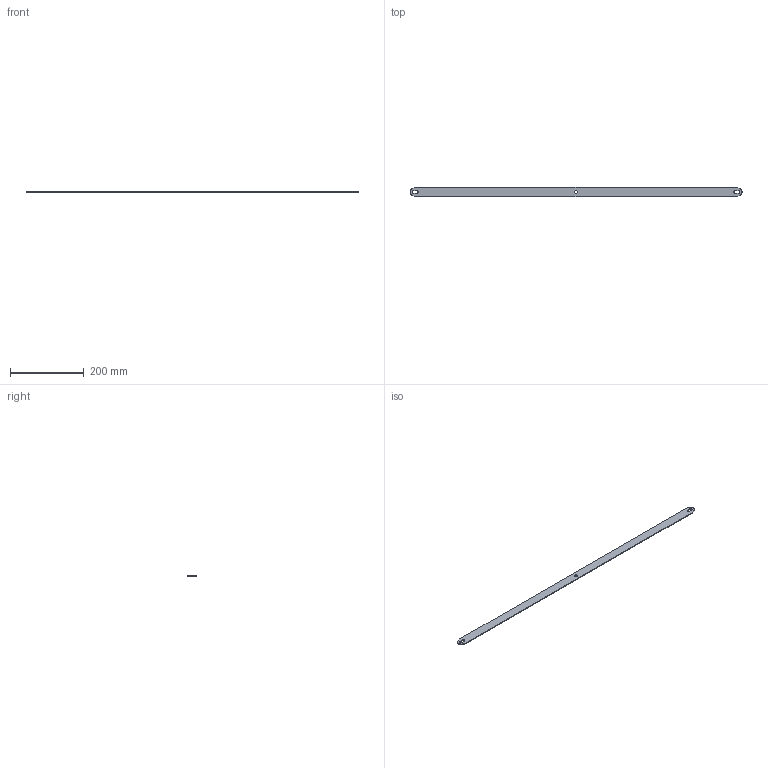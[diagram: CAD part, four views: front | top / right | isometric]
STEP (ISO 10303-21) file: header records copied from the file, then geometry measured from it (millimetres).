
FILE_DESCRIPTION(/* description */ ('Alibre Inc.'),/* implementation_level */ '2;1');
FILE_NAME(/* name */ 'export-74CE3961-5A22-4F89-8971-6955D95CD179',/* time_stamp */ '2022-04-19T13:27:48-05:00',/* author */ (''),/* organization */ (''),/* preprocessor_version */ 'ST-DEVELOPER v17',/* originating_system */ 'Alibre',/* authorisation */ '');
FILE_SCHEMA (('AUTOMOTIVE_DESIGN'));
Length unit declared in the file: centimetre
Bounding box: 900.94 x 25.4 x 2.26 mm (x, y, z)
Volume: 50634.3 mm3; surface area: 49163.3 mm2
Topology: 1 solids, 1 shells, 19 faces, 51 edges, 34 vertices
Faces by surface type: plane 12, cylinder 7
Full cylindrical faces by diameter (mm): 7.137 x1
Entity records: 609 total; most frequent: CARTESIAN_POINT 103, ORIENTED_EDGE 100, DIRECTION 90, EDGE_CURVE 50, VECTOR 36, LINE 36, VERTEX_POINT 34, AXIS2_PLACEMENT_3D 33
